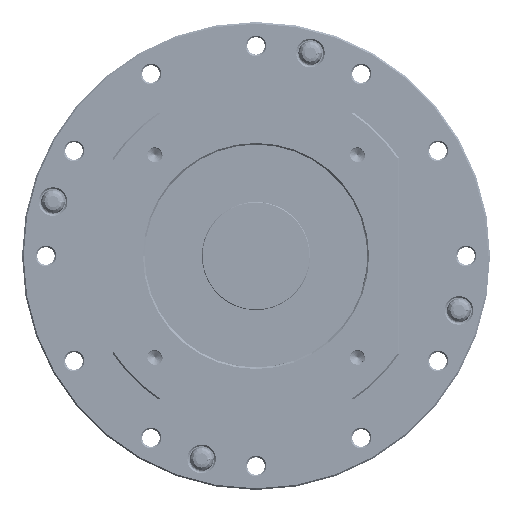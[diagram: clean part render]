
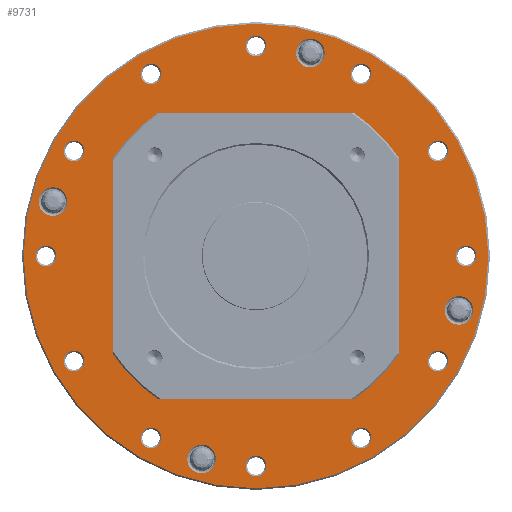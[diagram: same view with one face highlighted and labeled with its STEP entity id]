
A CAD part, front view. The second image highlights one B-rep face of the part: STEP entity #9731.
In plain terms, the highlighted planar face has unit normal (0, -1, 0).
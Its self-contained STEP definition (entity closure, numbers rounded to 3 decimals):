
#6339=PLANE('',#25548);
#6795=FACE_BOUND('',#12071,.T.);
#6796=FACE_BOUND('',#12072,.T.);
#6797=FACE_BOUND('',#12073,.T.);
#6798=FACE_BOUND('',#12074,.T.);
#6799=FACE_BOUND('',#12075,.T.);
#6800=FACE_BOUND('',#12076,.T.);
#6801=FACE_BOUND('',#12077,.T.);
#6802=FACE_BOUND('',#12078,.T.);
#6803=FACE_BOUND('',#12079,.T.);
#6804=FACE_BOUND('',#12080,.T.);
#6805=FACE_BOUND('',#12081,.T.);
#6806=FACE_BOUND('',#12082,.T.);
#6807=FACE_BOUND('',#12083,.T.);
#6808=FACE_BOUND('',#12084,.T.);
#6809=FACE_BOUND('',#12085,.T.);
#6810=FACE_BOUND('',#12086,.T.);
#6811=FACE_BOUND('',#12087,.T.);
#6812=FACE_BOUND('',#12088,.T.);
#8149=LINE('',#34664,#8899);
#8154=LINE('',#34759,#8904);
#8158=LINE('',#34794,#8908);
#8162=LINE('',#34818,#8912);
#8899=VECTOR('',#27684,1.);
#8904=VECTOR('',#27705,1.);
#8908=VECTOR('',#27727,1.);
#8912=VECTOR('',#27745,1.);
#9731=ADVANCED_FACE('',(#6795,#6796,#6797,#6798,#6799,#6800,#6801,#6802,
#6803,#6804,#6805,#6806,#6807,#6808,#6809,#6810,#6811,#6812),#6339,.F.);
#12071=EDGE_LOOP('',(#15103,#15104,#15105,#15106,#15107,#15108,#15109,#15110));
#12072=EDGE_LOOP('',(#15111));
#12073=EDGE_LOOP('',(#15112));
#12074=EDGE_LOOP('',(#15113));
#12075=EDGE_LOOP('',(#15114));
#12076=EDGE_LOOP('',(#15115));
#12077=EDGE_LOOP('',(#15116));
#12078=EDGE_LOOP('',(#15117));
#12079=EDGE_LOOP('',(#15118));
#12080=EDGE_LOOP('',(#15119));
#12081=EDGE_LOOP('',(#15120));
#12082=EDGE_LOOP('',(#15121));
#12083=EDGE_LOOP('',(#15122));
#12084=EDGE_LOOP('',(#15123));
#12085=EDGE_LOOP('',(#15124));
#12086=EDGE_LOOP('',(#15125));
#12087=EDGE_LOOP('',(#15126));
#12088=EDGE_LOOP('',(#15127));
#15103=ORIENTED_EDGE('',*,*,#21956,.F.);
#15104=ORIENTED_EDGE('',*,*,#21949,.T.);
#15105=ORIENTED_EDGE('',*,*,#22036,.F.);
#15106=ORIENTED_EDGE('',*,*,#21959,.T.);
#15107=ORIENTED_EDGE('',*,*,#21963,.F.);
#15108=ORIENTED_EDGE('',*,*,#21936,.T.);
#15109=ORIENTED_EDGE('',*,*,#21943,.F.);
#15110=ORIENTED_EDGE('',*,*,#21921,.T.);
#15111=ORIENTED_EDGE('',*,*,#22037,.T.);
#15112=ORIENTED_EDGE('',*,*,#22038,.T.);
#15113=ORIENTED_EDGE('',*,*,#22039,.T.);
#15114=ORIENTED_EDGE('',*,*,#22040,.T.);
#15115=ORIENTED_EDGE('',*,*,#22041,.T.);
#15116=ORIENTED_EDGE('',*,*,#22042,.T.);
#15117=ORIENTED_EDGE('',*,*,#22043,.T.);
#15118=ORIENTED_EDGE('',*,*,#22044,.T.);
#15119=ORIENTED_EDGE('',*,*,#22045,.T.);
#15120=ORIENTED_EDGE('',*,*,#22046,.T.);
#15121=ORIENTED_EDGE('',*,*,#22047,.T.);
#15122=ORIENTED_EDGE('',*,*,#22048,.T.);
#15123=ORIENTED_EDGE('',*,*,#22049,.T.);
#15124=ORIENTED_EDGE('',*,*,#22050,.T.);
#15125=ORIENTED_EDGE('',*,*,#22051,.T.);
#15126=ORIENTED_EDGE('',*,*,#22052,.T.);
#15127=ORIENTED_EDGE('',*,*,#22053,.T.);
#19980=VERTEX_POINT('',#34659);
#19982=VERTEX_POINT('',#34663);
#19994=VERTEX_POINT('',#34758);
#19995=VERTEX_POINT('',#34760);
#20004=VERTEX_POINT('',#34793);
#20005=VERTEX_POINT('',#34795);
#20009=VERTEX_POINT('',#34817);
#20010=VERTEX_POINT('',#34819);
#20075=VERTEX_POINT('',#40399);
#20076=VERTEX_POINT('',#40401);
#20077=VERTEX_POINT('',#40403);
#20078=VERTEX_POINT('',#40405);
#20079=VERTEX_POINT('',#40407);
#20080=VERTEX_POINT('',#40409);
#20081=VERTEX_POINT('',#40411);
#20082=VERTEX_POINT('',#40413);
#20083=VERTEX_POINT('',#40415);
#20084=VERTEX_POINT('',#40417);
#20085=VERTEX_POINT('',#40419);
#20086=VERTEX_POINT('',#40421);
#20087=VERTEX_POINT('',#40423);
#20088=VERTEX_POINT('',#40425);
#20089=VERTEX_POINT('',#40427);
#20090=VERTEX_POINT('',#40429);
#20091=VERTEX_POINT('',#40431);
#21921=EDGE_CURVE('',#19980,#19982,#8149,.T.);
#21936=EDGE_CURVE('',#19995,#19994,#8154,.T.);
#21943=EDGE_CURVE('',#19980,#19994,#24435,.T.);
#21949=EDGE_CURVE('',#20005,#20004,#8158,.T.);
#21956=EDGE_CURVE('',#20005,#19982,#24441,.T.);
#21959=EDGE_CURVE('',#20010,#20009,#8162,.T.);
#21963=EDGE_CURVE('',#19995,#20009,#24443,.T.);
#22036=EDGE_CURVE('',#20010,#20004,#24471,.T.);
#22037=EDGE_CURVE('',#20075,#20075,#24472,.T.);
#22038=EDGE_CURVE('',#20076,#20076,#24473,.T.);
#22039=EDGE_CURVE('',#20077,#20077,#24474,.T.);
#22040=EDGE_CURVE('',#20078,#20078,#24475,.T.);
#22041=EDGE_CURVE('',#20079,#20079,#24476,.T.);
#22042=EDGE_CURVE('',#20080,#20080,#24477,.T.);
#22043=EDGE_CURVE('',#20081,#20081,#24478,.T.);
#22044=EDGE_CURVE('',#20082,#20082,#24479,.T.);
#22045=EDGE_CURVE('',#20083,#20083,#24480,.T.);
#22046=EDGE_CURVE('',#20084,#20084,#24481,.T.);
#22047=EDGE_CURVE('',#20085,#20085,#24482,.T.);
#22048=EDGE_CURVE('',#20086,#20086,#24483,.T.);
#22049=EDGE_CURVE('',#20087,#20087,#24484,.T.);
#22050=EDGE_CURVE('',#20088,#20088,#24485,.T.);
#22051=EDGE_CURVE('',#20089,#20089,#24486,.T.);
#22052=EDGE_CURVE('',#20090,#20090,#24487,.T.);
#22053=EDGE_CURVE('',#20091,#20091,#24488,.T.);
#24435=CIRCLE('',#25468,54.5);
#24441=CIRCLE('',#25477,54.5);
#24443=CIRCLE('',#25482,54.5);
#24471=CIRCLE('',#25530,54.5);
#24472=CIRCLE('',#25531,3.25);
#24473=CIRCLE('',#25532,4.5);
#24474=CIRCLE('',#25533,3.25);
#24475=CIRCLE('',#25534,3.25);
#24476=CIRCLE('',#25535,3.25);
#24477=CIRCLE('',#25536,4.5);
#24478=CIRCLE('',#25537,3.25);
#24479=CIRCLE('',#25538,3.25);
#24480=CIRCLE('',#25539,3.25);
#24481=CIRCLE('',#25540,4.5);
#24482=CIRCLE('',#25541,3.25);
#24483=CIRCLE('',#25542,3.25);
#24484=CIRCLE('',#25543,3.25);
#24485=CIRCLE('',#25544,4.5);
#24486=CIRCLE('',#25545,3.25);
#24487=CIRCLE('',#25546,3.25);
#24488=CIRCLE('',#25547,73.);
#25468=AXIS2_PLACEMENT_3D('',#34778,#27717,#27718);
#25477=AXIS2_PLACEMENT_3D('',#34813,#27739,#27740);
#25482=AXIS2_PLACEMENT_3D('',#34829,#27753,#27754);
#25530=AXIS2_PLACEMENT_3D('',#40397,#27870,#27871);
#25531=AXIS2_PLACEMENT_3D('',#40398,#27872,#27873);
#25532=AXIS2_PLACEMENT_3D('',#40400,#27874,#27875);
#25533=AXIS2_PLACEMENT_3D('',#40402,#27876,#27877);
#25534=AXIS2_PLACEMENT_3D('',#40404,#27878,#27879);
#25535=AXIS2_PLACEMENT_3D('',#40406,#27880,#27881);
#25536=AXIS2_PLACEMENT_3D('',#40408,#27882,#27883);
#25537=AXIS2_PLACEMENT_3D('',#40410,#27884,#27885);
#25538=AXIS2_PLACEMENT_3D('',#40412,#27886,#27887);
#25539=AXIS2_PLACEMENT_3D('',#40414,#27888,#27889);
#25540=AXIS2_PLACEMENT_3D('',#40416,#27890,#27891);
#25541=AXIS2_PLACEMENT_3D('',#40418,#27892,#27893);
#25542=AXIS2_PLACEMENT_3D('',#40420,#27894,#27895);
#25543=AXIS2_PLACEMENT_3D('',#40422,#27896,#27897);
#25544=AXIS2_PLACEMENT_3D('',#40424,#27898,#27899);
#25545=AXIS2_PLACEMENT_3D('',#40426,#27900,#27901);
#25546=AXIS2_PLACEMENT_3D('',#40428,#27902,#27903);
#25547=AXIS2_PLACEMENT_3D('',#40430,#27904,#27905);
#25548=AXIS2_PLACEMENT_3D('',#40432,#27906,#27907);
#27684=DIRECTION('',(1.,0.,0.));
#27705=DIRECTION('',(0.,0.,1.));
#27717=DIRECTION('',(0.,-1.,0.));
#27718=DIRECTION('',(1.,0.,0.));
#27727=DIRECTION('',(0.,0.,-1.));
#27739=DIRECTION('',(0.,-1.,0.));
#27740=DIRECTION('',(1.,0.,0.));
#27745=DIRECTION('',(-1.,0.,0.));
#27753=DIRECTION('',(0.,-1.,0.));
#27754=DIRECTION('',(1.,0.,0.));
#27870=DIRECTION('',(0.,-1.,0.));
#27871=DIRECTION('',(1.,0.,0.));
#27872=DIRECTION('',(0.,1.,0.));
#27873=DIRECTION('',(0.,0.,1.));
#27874=DIRECTION('',(0.,1.,0.));
#27875=DIRECTION('',(0.,0.,1.));
#27876=DIRECTION('',(0.,1.,0.));
#27877=DIRECTION('',(0.,0.,1.));
#27878=DIRECTION('',(0.,1.,0.));
#27879=DIRECTION('',(0.,0.,1.));
#27880=DIRECTION('',(0.,1.,0.));
#27881=DIRECTION('',(0.,0.,1.));
#27882=DIRECTION('',(0.,1.,0.));
#27883=DIRECTION('',(0.,0.,1.));
#27884=DIRECTION('',(0.,1.,0.));
#27885=DIRECTION('',(0.,0.,1.));
#27886=DIRECTION('',(0.,1.,0.));
#27887=DIRECTION('',(0.,0.,1.));
#27888=DIRECTION('',(0.,1.,0.));
#27889=DIRECTION('',(0.,0.,1.));
#27890=DIRECTION('',(0.,1.,0.));
#27891=DIRECTION('',(0.,0.,1.));
#27892=DIRECTION('',(0.,1.,0.));
#27893=DIRECTION('',(0.,0.,1.));
#27894=DIRECTION('',(0.,1.,0.));
#27895=DIRECTION('',(0.,0.,1.));
#27896=DIRECTION('',(0.,1.,0.));
#27897=DIRECTION('',(0.,0.,1.));
#27898=DIRECTION('',(0.,1.,0.));
#27899=DIRECTION('',(0.,0.,1.));
#27900=DIRECTION('',(0.,1.,0.));
#27901=DIRECTION('',(0.,0.,1.));
#27902=DIRECTION('',(0.,1.,0.));
#27903=DIRECTION('',(0.,0.,1.));
#27904=DIRECTION('',(0.,-1.,0.));
#27905=DIRECTION('',(0.,0.,1.));
#27906=DIRECTION('',(0.,1.,0.));
#27907=DIRECTION('',(0.,0.,1.));
#34659=CARTESIAN_POINT('',(-30.745,0.,45.));
#34663=CARTESIAN_POINT('',(30.745,0.,45.));
#34664=CARTESIAN_POINT('',(-24.414,0.,45.));
#34758=CARTESIAN_POINT('',(-45.,0.,30.745));
#34759=CARTESIAN_POINT('',(-45.,0.,-24.414));
#34760=CARTESIAN_POINT('',(-45.,0.,-30.745));
#34778=CARTESIAN_POINT('',(0.,0.,0.));
#34793=CARTESIAN_POINT('',(45.,0.,-30.745));
#34794=CARTESIAN_POINT('',(45.,0.,24.414));
#34795=CARTESIAN_POINT('',(45.,0.,30.745));
#34813=CARTESIAN_POINT('',(0.,0.,0.));
#34817=CARTESIAN_POINT('',(-30.745,0.,-45.));
#34818=CARTESIAN_POINT('',(24.414,0.,-45.));
#34819=CARTESIAN_POINT('',(30.745,0.,-45.));
#34829=CARTESIAN_POINT('',(0.,0.,0.));
#40397=CARTESIAN_POINT('',(0.,0.,0.));
#40398=CARTESIAN_POINT('',(0.,0.,-66.));
#40399=CARTESIAN_POINT('',(0.,0.,-62.75));
#40400=CARTESIAN_POINT('',(-17.082,0.,-63.751));
#40401=CARTESIAN_POINT('',(-17.082,0.,-59.251));
#40402=CARTESIAN_POINT('',(-33.,0.,-57.158));
#40403=CARTESIAN_POINT('',(-33.,0.,-53.908));
#40404=CARTESIAN_POINT('',(-57.158,0.,-33.));
#40405=CARTESIAN_POINT('',(-57.158,0.,-29.75));
#40406=CARTESIAN_POINT('',(-66.,0.,0.));
#40407=CARTESIAN_POINT('',(-66.,0.,3.25));
#40408=CARTESIAN_POINT('',(-63.751,0.,17.082));
#40409=CARTESIAN_POINT('',(-63.751,0.,21.582));
#40410=CARTESIAN_POINT('',(-57.158,0.,33.));
#40411=CARTESIAN_POINT('',(-57.158,0.,36.25));
#40412=CARTESIAN_POINT('',(-33.,0.,57.158));
#40413=CARTESIAN_POINT('',(-33.,0.,60.408));
#40414=CARTESIAN_POINT('',(0.,0.,66.));
#40415=CARTESIAN_POINT('',(0.,0.,69.25));
#40416=CARTESIAN_POINT('',(17.082,0.,63.751));
#40417=CARTESIAN_POINT('',(17.082,0.,68.251));
#40418=CARTESIAN_POINT('',(33.,0.,57.158));
#40419=CARTESIAN_POINT('',(33.,0.,60.408));
#40420=CARTESIAN_POINT('',(57.158,0.,33.));
#40421=CARTESIAN_POINT('',(57.158,0.,36.25));
#40422=CARTESIAN_POINT('',(66.,0.,0.));
#40423=CARTESIAN_POINT('',(66.,0.,3.25));
#40424=CARTESIAN_POINT('',(63.751,0.,-17.082));
#40425=CARTESIAN_POINT('',(63.751,0.,-12.582));
#40426=CARTESIAN_POINT('',(57.158,0.,-33.));
#40427=CARTESIAN_POINT('',(57.158,0.,-29.75));
#40428=CARTESIAN_POINT('',(33.,0.,-57.158));
#40429=CARTESIAN_POINT('',(33.,0.,-53.908));
#40430=CARTESIAN_POINT('',(0.,0.,0.));
#40431=CARTESIAN_POINT('',(0.,0.,73.));
#40432=CARTESIAN_POINT('',(30.,0.,0.));
